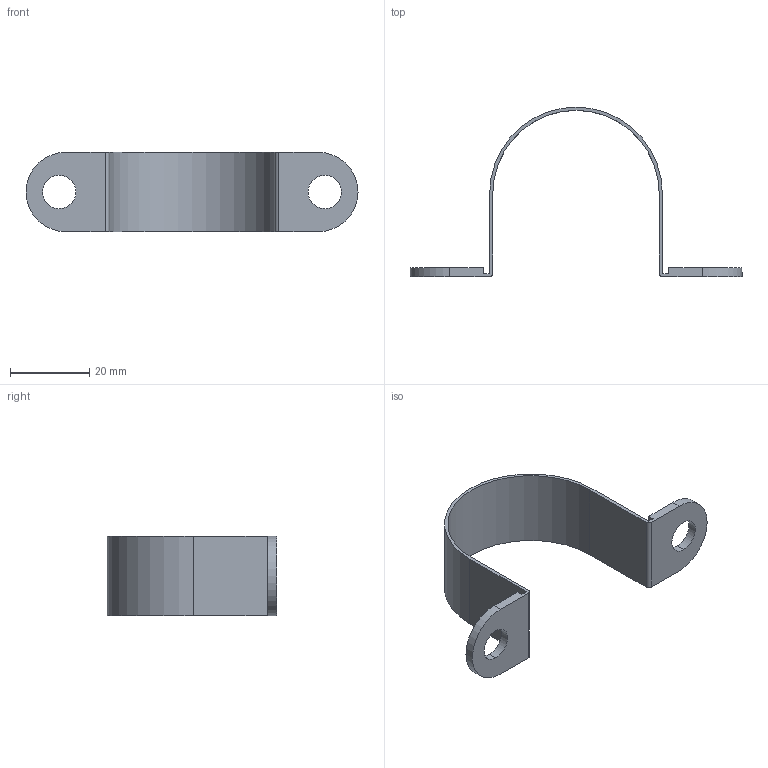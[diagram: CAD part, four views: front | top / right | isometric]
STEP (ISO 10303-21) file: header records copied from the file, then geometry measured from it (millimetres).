
FILE_DESCRIPTION (( 'STEP AP203' ), '1' );
FILE_NAME ('3D-R395_42_173762440.STEP', '2024-08-29T20:31:22', ( '' ), ( '' ), 'SwSTEP 2.0', 'SolidWorks 2024', '' );
FILE_SCHEMA (( 'CONFIG_CONTROL_DESIGN' ));
Length unit declared in the file: millimetre
Products named in the file (1): 3D-R395_42_173762440
Bounding box: 83.8 x 42.8 x 20 mm (x, y, z)
Volume: 3041.7 mm3; surface area: 6150 mm2
Topology: 1 solids, 1 shells, 26 faces, 72 edges, 48 vertices
Faces by surface type: plane 14, cylinder 12
Entity records: 925 total; most frequent: DIRECTION 150, CARTESIAN_POINT 147, ORIENTED_EDGE 144, EDGE_CURVE 72, AXIS2_PLACEMENT_3D 51, LINE 48, VERTEX_POINT 48, VECTOR 48
